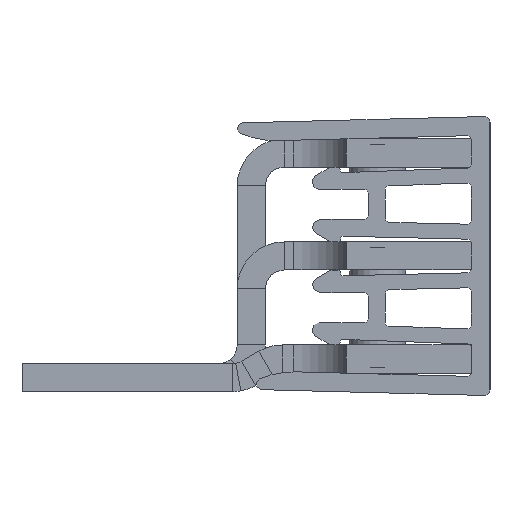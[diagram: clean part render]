
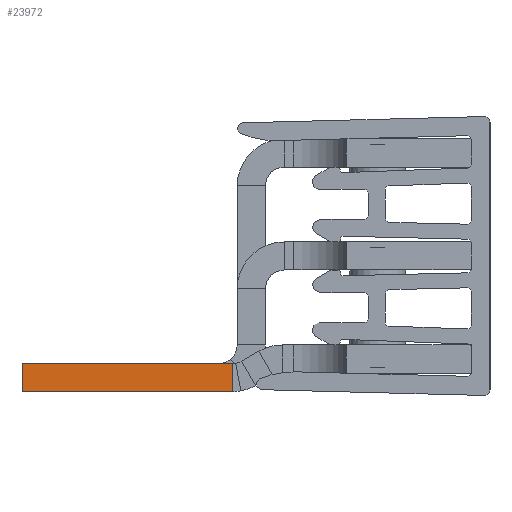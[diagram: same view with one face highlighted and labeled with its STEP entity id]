
A CAD part, left-side view. The second image highlights one B-rep face of the part: STEP entity #23972.
In plain terms, the highlighted planar face has unit normal (-1, 0, 0) as drawn and (1, 0, 0) by its records, which use the part's own axes.
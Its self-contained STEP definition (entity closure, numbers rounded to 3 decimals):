
#68 = CARTESIAN_POINT ( 'NONE',  ( 2., 1., -24. ) ) ;
#1803 = CARTESIAN_POINT ( 'NONE',  ( 2., 1., -24. ) ) ;
#1986 = ORIENTED_EDGE ( 'NONE', *, *, #40301, .F. ) ;
#4632 = ORIENTED_EDGE ( 'NONE', *, *, #12216, .T. ) ;
#5099 = VERTEX_POINT ( 'NONE', #16794 ) ;
#7614 = FACE_OUTER_BOUND ( 'NONE', #48136, .T. ) ;
#8802 = VERTEX_POINT ( 'NONE', #36903 ) ;
#9346 = LINE ( 'NONE', #27717, #49053 ) ;
#10764 = DIRECTION ( 'NONE',  ( 0., 0., 1. ) ) ;
#12216 = EDGE_CURVE ( 'NONE', #8802, #5099, #9346, .T. ) ;
#12493 = DIRECTION ( 'NONE',  ( 0., 1., 0. ) ) ;
#15049 = VECTOR ( 'NONE', #23499, 1000. ) ;
#15371 = DIRECTION ( 'NONE',  ( -1., 0., 0. ) ) ;
#16057 = LINE ( 'NONE', #35938, #53725 ) ;
#16794 = CARTESIAN_POINT ( 'NONE',  ( 2., 2.5, -12.768 ) ) ;
#17630 = LINE ( 'NONE', #44008, #15049 ) ;
#18716 = VERTEX_POINT ( 'NONE', #1803 ) ;
#19381 = PLANE ( 'NONE',  #26490 ) ;
#20346 = LINE ( 'NONE', #68, #44381 ) ;
#23499 = DIRECTION ( 'NONE',  ( 0., 0., 1. ) ) ;
#23972 = ADVANCED_FACE ( 'NONE', ( #7614 ), #19381, .F. ) ;
#25661 = EDGE_CURVE ( 'NONE', #18716, #34310, #17630, .T. ) ;
#26490 = AXIS2_PLACEMENT_3D ( 'NONE', #47884, #15371, #44055 ) ;
#26573 = ORIENTED_EDGE ( 'NONE', *, *, #30741, .T. ) ;
#27717 = CARTESIAN_POINT ( 'NONE',  ( 2., 2.5, -12.5 ) ) ;
#29291 = ORIENTED_EDGE ( 'NONE', *, *, #25661, .F. ) ;
#29338 = CARTESIAN_POINT ( 'NONE',  ( 2., 1., -12.768 ) ) ;
#30741 = EDGE_CURVE ( 'NONE', #18716, #8802, #20346, .T. ) ;
#34310 = VERTEX_POINT ( 'NONE', #29338 ) ;
#35938 = CARTESIAN_POINT ( 'NONE',  ( 2., 1., -12.768 ) ) ;
#36903 = CARTESIAN_POINT ( 'NONE',  ( 2., 2.5, -24. ) ) ;
#40301 = EDGE_CURVE ( 'NONE', #34310, #5099, #16057, .T. ) ;
#44008 = CARTESIAN_POINT ( 'NONE',  ( 2., 1., -12.5 ) ) ;
#44055 = DIRECTION ( 'NONE',  ( 0., 0., 1. ) ) ;
#44381 = VECTOR ( 'NONE', #12493, 1000. ) ;
#47884 = CARTESIAN_POINT ( 'NONE',  ( 2., 1., -12.5 ) ) ;
#48136 = EDGE_LOOP ( 'NONE', ( #29291, #26573, #4632, #1986 ) ) ;
#49053 = VECTOR ( 'NONE', #10764, 1000. ) ;
#52829 = DIRECTION ( 'NONE',  ( 0., 1., 0. ) ) ;
#53725 = VECTOR ( 'NONE', #52829, 1000. ) ;
